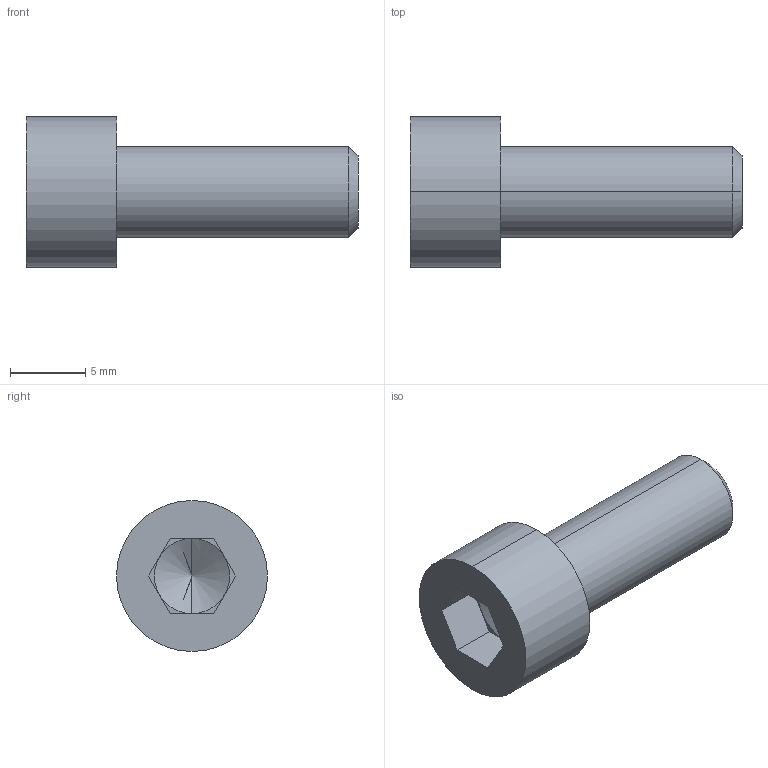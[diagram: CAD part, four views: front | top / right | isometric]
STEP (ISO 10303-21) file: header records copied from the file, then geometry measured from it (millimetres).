
FILE_DESCRIPTION (( 'STEP AP203' ), '1' );
FILE_NAME ('M6x16_DIN912.STEP', '2016-05-14T09:02:15', ( '' ), ( '' ), 'SwSTEP 2.0', 'SolidWorks 2014', '' );
FILE_SCHEMA (( 'CONFIG_CONTROL_DESIGN' ));
Length unit declared in the file: millimetre
Products named in the file (1): M6x16_DIN912
Bounding box: 22 x 10 x 10 mm (x, y, z)
Volume: 846 mm3; surface area: 694.9 mm2
Topology: 1 solids, 1 shells, 18 faces, 40 edges, 25 vertices
Faces by surface type: plane 10, cylinder 4, cone 4
Entity records: 563 total; most frequent: DIRECTION 88, CARTESIAN_POINT 82, ORIENTED_EDGE 76, EDGE_CURVE 38, AXIS2_PLACEMENT_3D 31, VECTOR 26, LINE 26, VERTEX_POINT 25
